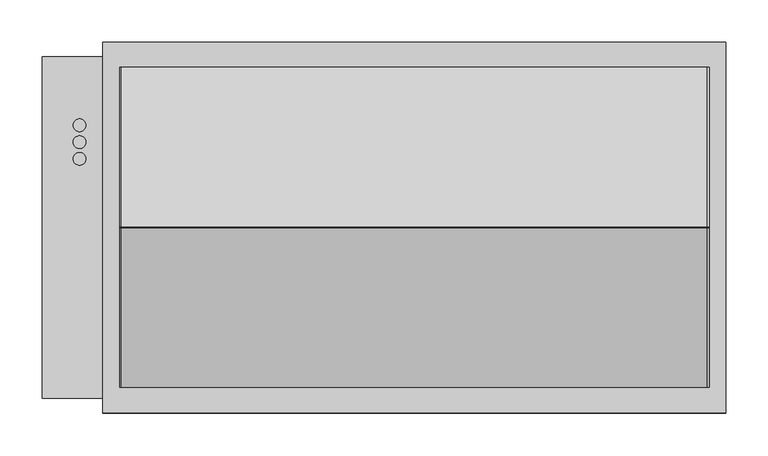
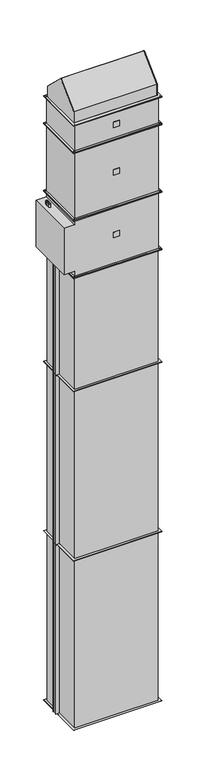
"""IFC4 building model written with IfcOpenShell, lengths in millimetres: proxy geometry, KORF_Завеса_ЭлектрическийНагрев_PWZ_C : PWZ-C 70-40 E DM."""

from ifc_helpers import new_model, si_unit, point, frame, frame_2d, origin, origin_with_axes, place, context, project, spatial, polyline, circle_curve, trimmed, segment, composite_curve, outline, extrude, source, transform, mapped, element, save


def mechanical_equipment_4c110e3a(model_context):
    return source(origin(), model_context, "Body", "SweptSolid", [
        extrude(outline(polyline([(25.0, -205.0), (-25.0, -205.0), (-25.0, -203.0), (25.0, -203.0), (25.0, -205.0)])), frame((0.0, 0.0, 4230.0), z_axis=(0.0, 0.0, 1.0), x_axis=(1.0, 0.0, 0.0)), (0.0, 0.0, 1.0), 50.0),
        extrude(outline(composite_curve([segment(trimmed(circle_curve(frame_2d((-397.5, 101.5)), 7.5), [point((-390.0, 101.5))], [point((-405.0, 101.5))], False, "CARTESIAN"), True, "CONTINUOUS"), segment(trimmed(circle_curve(frame_2d((-397.5, 101.5)), 7.5), [point((-405.0, 101.5))], [point((-390.0, 101.5))], False, "CARTESIAN"), True, "CONTINUOUS")], self_intersect=False)), frame((0.0, 0.0, 4460.0), z_axis=(0.0, 0.0, 1.0), x_axis=(1.0, 0.0, 0.0)), (0.0, 0.0, 1.0), 30.0),
        extrude(outline(composite_curve([segment(trimmed(circle_curve(frame_2d((-397.5, 81.5)), 7.5), [point((-390.0, 81.5))], [point((-405.0, 81.5))], False, "CARTESIAN"), True, "CONTINUOUS"), segment(trimmed(circle_curve(frame_2d((-397.5, 81.5)), 7.5), [point((-405.0, 81.5))], [point((-390.0, 81.5))], False, "CARTESIAN"), True, "CONTINUOUS")], self_intersect=False)), frame((0.0, 0.0, 4460.0), z_axis=(0.0, 0.0, 1.0), x_axis=(1.0, 0.0, 0.0)), (0.0, 0.0, 1.0), 30.0),
        extrude(outline(composite_curve([segment(trimmed(circle_curve(frame_2d((-397.5, 121.5)), 7.5), [point((-390.0, 121.5))], [point((-405.0, 121.5))], False, "CARTESIAN"), True, "CONTINUOUS"), segment(trimmed(circle_curve(frame_2d((-397.5, 121.5)), 7.5), [point((-405.0, 121.5))], [point((-390.0, 121.5))], False, "CARTESIAN"), True, "CONTINUOUS")], self_intersect=False)), frame((0.0, 0.0, 4460.0), z_axis=(0.0, 0.0, 1.0), x_axis=(1.0, 0.0, 0.0)), (0.0, 0.0, 1.0), 30.0),
        extrude(outline(polyline([(-121.5, 4230.0), (-109.0, 4230.0), (-109.0, 4305.0), (-94.0, 4305.0), (-94.0, 4230.0), (-81.5, 4230.0), (-101.5, 4205.0), (-121.5, 4230.0)])), frame((353.0, 0.0, 0.0), z_axis=(1.0, 0.0, 0.0), x_axis=(0.0, 1.0, 0.0)), (0.0, 0.0, 1.0), 1.0),
        extrude(outline(polyline([(4505.0, 353.0), (4505.0, -353.0), (4460.0, -353.0), (4460.0, -442.0), (4050.0, -442.0), (4050.0, -353.0), (4005.0, -353.0), (4005.0, 353.0), (4505.0, 353.0)])), frame((0.0, -203.0, 0.0), z_axis=(0.0, 1.0, 0.0), x_axis=(0.0, 0.0, 1.0)), (0.0, 0.0, 1.0), 406.0),
        extrude(outline(polyline([(370.0, -220.0), (-370.0, -220.0), (-370.0, 220.0), (370.0, 220.0), (370.0, -220.0)]), holes=[polyline([(350.0, -200.0), (350.0, 200.0), (-350.0, 200.0), (-350.0, -200.0), (350.0, -200.0)]), composite_curve([segment(trimmed(circle_curve(frame_2d((-360.0, -210.0)), 4.5), [point((-355.5, -210.0))], [point((-364.5, -210.0))], True, "CARTESIAN"), True, "CONTINUOUS"), segment(trimmed(circle_curve(frame_2d((-360.0, -210.0)), 4.5), [point((-364.5, -210.0))], [point((-355.5, -210.0))], True, "CARTESIAN"), True, "CONTINUOUS")], self_intersect=False), composite_curve([segment(trimmed(circle_curve(frame_2d((360.0, -210.0)), 4.5), [point((364.5, -210.0))], [point((355.5, -210.0))], True, "CARTESIAN"), True, "CONTINUOUS"), segment(trimmed(circle_curve(frame_2d((360.0, -210.0)), 4.5), [point((355.5, -210.0))], [point((364.5, -210.0))], True, "CARTESIAN"), True, "CONTINUOUS")], self_intersect=False), composite_curve([segment(trimmed(circle_curve(frame_2d((360.0, 210.0)), 4.5), [point((364.5, 210.0))], [point((355.5, 210.0))], True, "CARTESIAN"), True, "CONTINUOUS"), segment(trimmed(circle_curve(frame_2d((360.0, 210.0)), 4.5), [point((355.5, 210.0))], [point((364.5, 210.0))], True, "CARTESIAN"), True, "CONTINUOUS")], self_intersect=False), composite_curve([segment(trimmed(circle_curve(frame_2d((-360.0, 210.0)), 4.5), [point((-355.5, 210.0))], [point((-364.5, 210.0))], True, "CARTESIAN"), True, "CONTINUOUS"), segment(trimmed(circle_curve(frame_2d((-360.0, 210.0)), 4.5), [point((-364.5, 210.0))], [point((-355.5, 210.0))], True, "CARTESIAN"), True, "CONTINUOUS")], self_intersect=False)]), frame((0.0, 0.0, 4505.0), z_axis=(0.0, 0.0, 1.0), x_axis=(1.0, 0.0, 0.0)), (0.0, 0.0, 1.0), 5.0),
        extrude(outline(polyline([(370.0, -220.0), (-370.0, -220.0), (-370.0, 220.0), (370.0, 220.0), (370.0, -220.0)]), holes=[polyline([(350.0, -200.0), (350.0, 200.0), (-350.0, 200.0), (-350.0, -200.0), (350.0, -200.0)]), composite_curve([segment(trimmed(circle_curve(frame_2d((-360.0, -210.0)), 4.5), [point((-355.5, -210.0))], [point((-364.5, -210.0))], True, "CARTESIAN"), True, "CONTINUOUS"), segment(trimmed(circle_curve(frame_2d((-360.0, -210.0)), 4.5), [point((-364.5, -210.0))], [point((-355.5, -210.0))], True, "CARTESIAN"), True, "CONTINUOUS")], self_intersect=False), composite_curve([segment(trimmed(circle_curve(frame_2d((360.0, -210.0)), 4.5), [point((364.5, -210.0))], [point((355.5, -210.0))], True, "CARTESIAN"), True, "CONTINUOUS"), segment(trimmed(circle_curve(frame_2d((360.0, -210.0)), 4.5), [point((355.5, -210.0))], [point((364.5, -210.0))], True, "CARTESIAN"), True, "CONTINUOUS")], self_intersect=False), composite_curve([segment(trimmed(circle_curve(frame_2d((360.0, 210.0)), 4.5), [point((364.5, 210.0))], [point((355.5, 210.0))], True, "CARTESIAN"), True, "CONTINUOUS"), segment(trimmed(circle_curve(frame_2d((360.0, 210.0)), 4.5), [point((355.5, 210.0))], [point((364.5, 210.0))], True, "CARTESIAN"), True, "CONTINUOUS")], self_intersect=False), composite_curve([segment(trimmed(circle_curve(frame_2d((-360.0, 210.0)), 4.5), [point((-355.5, 210.0))], [point((-364.5, 210.0))], True, "CARTESIAN"), True, "CONTINUOUS"), segment(trimmed(circle_curve(frame_2d((-360.0, 210.0)), 4.5), [point((-364.5, 210.0))], [point((-355.5, 210.0))], True, "CARTESIAN"), True, "CONTINUOUS")], self_intersect=False)]), frame((0.0, 0.0, 4000.0), z_axis=(0.0, 0.0, 1.0), x_axis=(1.0, 0.0, 0.0)), (0.0, 0.0, 1.0), 5.0),
        extrude(outline(polyline([(25.0, -205.0), (-25.0, -205.0), (-25.0, -203.0), (25.0, -203.0), (25.0, -205.0)])), frame((0.0, 0.0, 5206.0), z_axis=(0.0, 0.0, 1.0), x_axis=(1.0, 0.0, 0.0)), (0.0, 0.0, 1.0), 50.0),
        extrude(outline(polyline([(-370.0, -220.0), (-370.0, 220.0), (370.0, 220.0), (370.0, -220.0), (-370.0, -220.0)]), holes=[polyline([(-350.0, -200.0), (350.0, -200.0), (350.0, 200.0), (-350.0, 200.0), (-350.0, -200.0)]), composite_curve([segment(trimmed(circle_curve(frame_2d((360.0, -210.0)), 4.5), [point((364.5, -210.0))], [point((355.5, -210.0))], True, "CARTESIAN"), True, "CONTINUOUS"), segment(trimmed(circle_curve(frame_2d((360.0, -210.0)), 4.5), [point((355.5, -210.0))], [point((364.5, -210.0))], True, "CARTESIAN"), True, "CONTINUOUS")], self_intersect=False), composite_curve([segment(trimmed(circle_curve(frame_2d((-360.0, -210.0)), 4.5), [point((-355.5, -210.0))], [point((-364.5, -210.0))], True, "CARTESIAN"), True, "CONTINUOUS"), segment(trimmed(circle_curve(frame_2d((-360.0, -210.0)), 4.5), [point((-364.5, -210.0))], [point((-355.5, -210.0))], True, "CARTESIAN"), True, "CONTINUOUS")], self_intersect=False), composite_curve([segment(trimmed(circle_curve(frame_2d((-360.0, 210.0)), 4.5), [point((-355.5, 210.0))], [point((-364.5, 210.0))], True, "CARTESIAN"), True, "CONTINUOUS"), segment(trimmed(circle_curve(frame_2d((-360.0, 210.0)), 4.5), [point((-364.5, 210.0))], [point((-355.5, 210.0))], True, "CARTESIAN"), True, "CONTINUOUS")], self_intersect=False), composite_curve([segment(trimmed(circle_curve(frame_2d((360.0, 210.0)), 4.5), [point((364.5, 210.0))], [point((355.5, 210.0))], True, "CARTESIAN"), True, "CONTINUOUS"), segment(trimmed(circle_curve(frame_2d((360.0, 210.0)), 4.5), [point((355.5, 210.0))], [point((364.5, 210.0))], True, "CARTESIAN"), True, "CONTINUOUS")], self_intersect=False)]), frame((0.0, 0.0, 5110.0), z_axis=(0.0, 0.0, 1.0), x_axis=(1.0, 0.0, 0.0)), (0.0, 0.0, 1.0), 5.0),
        extrude(outline(polyline([(-370.0, -220.0), (-370.0, 220.0), (370.0, 220.0), (370.0, -220.0), (-370.0, -220.0)]), holes=[polyline([(-350.0, -200.0), (350.0, -200.0), (350.0, 200.0), (-350.0, 200.0), (-350.0, -200.0)]), composite_curve([segment(trimmed(circle_curve(frame_2d((360.0, -210.0)), 4.5), [point((364.5, -210.0))], [point((355.5, -210.0))], True, "CARTESIAN"), True, "CONTINUOUS"), segment(trimmed(circle_curve(frame_2d((360.0, -210.0)), 4.5), [point((355.5, -210.0))], [point((364.5, -210.0))], True, "CARTESIAN"), True, "CONTINUOUS")], self_intersect=False), composite_curve([segment(trimmed(circle_curve(frame_2d((-360.0, -210.0)), 4.5), [point((-355.5, -210.0))], [point((-364.5, -210.0))], True, "CARTESIAN"), True, "CONTINUOUS"), segment(trimmed(circle_curve(frame_2d((-360.0, -210.0)), 4.5), [point((-364.5, -210.0))], [point((-355.5, -210.0))], True, "CARTESIAN"), True, "CONTINUOUS")], self_intersect=False), composite_curve([segment(trimmed(circle_curve(frame_2d((-360.0, 210.0)), 4.5), [point((-355.5, 210.0))], [point((-364.5, 210.0))], True, "CARTESIAN"), True, "CONTINUOUS"), segment(trimmed(circle_curve(frame_2d((-360.0, 210.0)), 4.5), [point((-364.5, 210.0))], [point((-355.5, 210.0))], True, "CARTESIAN"), True, "CONTINUOUS")], self_intersect=False), composite_curve([segment(trimmed(circle_curve(frame_2d((360.0, 210.0)), 4.5), [point((364.5, 210.0))], [point((355.5, 210.0))], True, "CARTESIAN"), True, "CONTINUOUS"), segment(trimmed(circle_curve(frame_2d((360.0, 210.0)), 4.5), [point((355.5, 210.0))], [point((364.5, 210.0))], True, "CARTESIAN"), True, "CONTINUOUS")], self_intersect=False)]), frame((0.0, 0.0, 5347.0), z_axis=(0.0, 0.0, 1.0), x_axis=(1.0, 0.0, 0.0)), (0.0, 0.0, 1.0), 5.0),
        extrude(outline(polyline([(-353.0, -203.0), (-353.0, 203.0), (353.0, 203.0), (353.0, -203.0), (-353.0, -203.0)])), frame((0.0, 0.0, 5115.0), z_axis=(0.0, 0.0, 1.0), x_axis=(1.0, 0.0, 0.0)), (0.0, 0.0, 1.0), 232.0),
        extrude(outline(polyline([(25.0, -205.0), (-25.0, -205.0), (-25.0, -203.0), (25.0, -203.0), (25.0, -205.0)])), frame((0.0, 0.0, 4785.0), z_axis=(0.0, 0.0, 1.0), x_axis=(1.0, 0.0, 0.0)), (0.0, 0.0, 1.0), 50.0),
        extrude(outline(polyline([(370.0, -220.0), (-370.0, -220.0), (-370.0, 220.0), (370.0, 220.0), (370.0, -220.0)]), holes=[polyline([(350.0, -200.0), (350.0, 200.0), (-350.0, 200.0), (-350.0, -200.0), (350.0, -200.0)]), composite_curve([segment(trimmed(circle_curve(frame_2d((-360.0, -210.0)), 4.5), [point((-355.5, -210.0))], [point((-364.5, -210.0))], True, "CARTESIAN"), True, "CONTINUOUS"), segment(trimmed(circle_curve(frame_2d((-360.0, -210.0)), 4.5), [point((-364.5, -210.0))], [point((-355.5, -210.0))], True, "CARTESIAN"), True, "CONTINUOUS")], self_intersect=False), composite_curve([segment(trimmed(circle_curve(frame_2d((360.0, -210.0)), 4.5), [point((364.5, -210.0))], [point((355.5, -210.0))], True, "CARTESIAN"), True, "CONTINUOUS"), segment(trimmed(circle_curve(frame_2d((360.0, -210.0)), 4.5), [point((355.5, -210.0))], [point((364.5, -210.0))], True, "CARTESIAN"), True, "CONTINUOUS")], self_intersect=False), composite_curve([segment(trimmed(circle_curve(frame_2d((360.0, 210.0)), 4.5), [point((364.5, 210.0))], [point((355.5, 210.0))], True, "CARTESIAN"), True, "CONTINUOUS"), segment(trimmed(circle_curve(frame_2d((360.0, 210.0)), 4.5), [point((355.5, 210.0))], [point((364.5, 210.0))], True, "CARTESIAN"), True, "CONTINUOUS")], self_intersect=False), composite_curve([segment(trimmed(circle_curve(frame_2d((-360.0, 210.0)), 4.5), [point((-355.5, 210.0))], [point((-364.5, 210.0))], True, "CARTESIAN"), True, "CONTINUOUS"), segment(trimmed(circle_curve(frame_2d((-360.0, 210.0)), 4.5), [point((-364.5, 210.0))], [point((-355.5, 210.0))], True, "CARTESIAN"), True, "CONTINUOUS")], self_intersect=False)]), frame((0.0, 0.0, 5105.0), z_axis=(0.0, 0.0, 1.0), x_axis=(1.0, 0.0, 0.0)), (0.0, 0.0, 1.0), 5.0),
        extrude(outline(polyline([(370.0, -220.0), (-370.0, -220.0), (-370.0, 220.0), (370.0, 220.0), (370.0, -220.0)]), holes=[polyline([(350.0, -200.0), (350.0, 200.0), (-350.0, 200.0), (-350.0, -200.0), (350.0, -200.0)]), composite_curve([segment(trimmed(circle_curve(frame_2d((-360.0, -210.0)), 4.5), [point((-355.5, -210.0))], [point((-364.5, -210.0))], True, "CARTESIAN"), True, "CONTINUOUS"), segment(trimmed(circle_curve(frame_2d((-360.0, -210.0)), 4.5), [point((-364.5, -210.0))], [point((-355.5, -210.0))], True, "CARTESIAN"), True, "CONTINUOUS")], self_intersect=False), composite_curve([segment(trimmed(circle_curve(frame_2d((360.0, -210.0)), 4.5), [point((364.5, -210.0))], [point((355.5, -210.0))], True, "CARTESIAN"), True, "CONTINUOUS"), segment(trimmed(circle_curve(frame_2d((360.0, -210.0)), 4.5), [point((355.5, -210.0))], [point((364.5, -210.0))], True, "CARTESIAN"), True, "CONTINUOUS")], self_intersect=False), composite_curve([segment(trimmed(circle_curve(frame_2d((360.0, 210.0)), 4.5), [point((364.5, 210.0))], [point((355.5, 210.0))], True, "CARTESIAN"), True, "CONTINUOUS"), segment(trimmed(circle_curve(frame_2d((360.0, 210.0)), 4.5), [point((355.5, 210.0))], [point((364.5, 210.0))], True, "CARTESIAN"), True, "CONTINUOUS")], self_intersect=False), composite_curve([segment(trimmed(circle_curve(frame_2d((-360.0, 210.0)), 4.5), [point((-355.5, 210.0))], [point((-364.5, 210.0))], True, "CARTESIAN"), True, "CONTINUOUS"), segment(trimmed(circle_curve(frame_2d((-360.0, 210.0)), 4.5), [point((-364.5, 210.0))], [point((-355.5, 210.0))], True, "CARTESIAN"), True, "CONTINUOUS")], self_intersect=False)]), frame((0.0, 0.0, 4510.0), z_axis=(0.0, 0.0, 1.0), x_axis=(1.0, 0.0, 0.0)), (0.0, 0.0, 1.0), 5.0),
        extrude(outline(polyline([(353.0, -203.0), (-353.0, -203.0), (-353.0, 203.0), (353.0, 203.0), (353.0, -203.0)])), frame((0.0, 0.0, 4515.0), z_axis=(0.0, 0.0, 1.0), x_axis=(1.0, 0.0, 0.0)), (0.0, 0.0, 1.0), 590.0),
        extrude(outline(polyline([(350.0, 200.0), (350.0, -200.0), (-350.0, -200.0), (-350.0, 200.0), (350.0, 200.0)])), frame((0.0, 0.0, 3000.0), z_axis=(0.0, 0.0, 1.0), x_axis=(1.0, 0.0, 0.0)), (0.0, 0.0, 1.0), 1000.0),
        extrude(outline(polyline([(-378.0, 52.5), (-350.0, 52.5), (-350.0, 23.5), (-378.0, 23.5), (-378.0, 52.5)])), frame((0.0, 0.0, 3002.0), z_axis=(0.0, 0.0, 1.0), x_axis=(1.0, 0.0, 0.0)), (0.0, 0.0, 1.0), 996.0),
        extrude(outline(polyline([(-382.0, 56.5), (-350.0, 56.5), (-350.0, 54.5), (-382.0, 54.5), (-382.0, 56.5)])), frame((0.0, 0.0, 3002.0), z_axis=(0.0, 0.0, 1.0), x_axis=(1.0, 0.0, 0.0)), (0.0, 0.0, 1.0), 996.0),
        extrude(outline(polyline([(-382.0, 19.5), (-382.0, 21.5), (-350.0, 21.5), (-350.0, 19.5), (-382.0, 19.5)])), frame((0.0, 0.0, 3002.0), z_axis=(0.0, 0.0, 1.0), x_axis=(1.0, 0.0, 0.0)), (0.0, 0.0, 1.0), 996.0),
        extrude(outline(polyline([(370.0, 220.0), (370.0, -220.0), (-370.0, -220.0), (-370.0, 220.0), (370.0, 220.0)]), holes=[polyline([(350.0, 200.0), (-350.0, 200.0), (-350.0, -200.0), (350.0, -200.0), (350.0, 200.0)])]), frame((0.0, 0.0, 3998.0), z_axis=(0.0, 0.0, 1.0), x_axis=(1.0, 0.0, 0.0)), (0.0, 0.0, 1.0), 2.0),
        extrude(outline(polyline([(370.0, 220.0), (370.0, -220.0), (-370.0, -220.0), (-370.0, 220.0), (370.0, 220.0)]), holes=[polyline([(350.0, 200.0), (-350.0, 200.0), (-350.0, -200.0), (350.0, -200.0), (350.0, 200.0)])]), frame((0.0, 0.0, 3000.0), z_axis=(0.0, 0.0, 1.0), x_axis=(1.0, 0.0, 0.0)), (0.0, 0.0, 1.0), 2.0),
        extrude(outline(polyline([(350.0, 200.0), (350.0, -200.0), (-350.0, -200.0), (-350.0, 200.0), (350.0, 200.0)])), frame((0.0, 0.0, 1500.0), z_axis=(0.0, 0.0, 1.0), x_axis=(1.0, 0.0, 0.0)), (0.0, 0.0, 1.0), 1500.0),
        extrude(outline(polyline([(-378.0, 52.5), (-350.0, 52.5), (-350.0, 23.5), (-378.0, 23.5), (-378.0, 52.5)])), frame((0.0, 0.0, 1502.0), z_axis=(0.0, 0.0, 1.0), x_axis=(1.0, 0.0, 0.0)), (0.0, 0.0, 1.0), 1496.0),
        extrude(outline(polyline([(-382.0, 56.5), (-350.0, 56.5), (-350.0, 54.5), (-382.0, 54.5), (-382.0, 56.5)])), frame((0.0, 0.0, 1502.0), z_axis=(0.0, 0.0, 1.0), x_axis=(1.0, 0.0, 0.0)), (0.0, 0.0, 1.0), 1496.0),
        extrude(outline(polyline([(-382.0, 19.5), (-382.0, 21.5), (-350.0, 21.5), (-350.0, 19.5), (-382.0, 19.5)])), frame((0.0, 0.0, 1502.0), z_axis=(0.0, 0.0, 1.0), x_axis=(1.0, 0.0, 0.0)), (0.0, 0.0, 1.0), 1496.0),
        extrude(outline(polyline([(370.0, 220.0), (370.0, -220.0), (-370.0, -220.0), (-370.0, 220.0), (370.0, 220.0)]), holes=[polyline([(350.0, 200.0), (-350.0, 200.0), (-350.0, -200.0), (350.0, -200.0), (350.0, 200.0)])]), frame((0.0, 0.0, 2998.0), z_axis=(0.0, 0.0, 1.0), x_axis=(1.0, 0.0, 0.0)), (0.0, 0.0, 1.0), 2.0),
        extrude(outline(polyline([(370.0, 220.0), (370.0, -220.0), (-370.0, -220.0), (-370.0, 220.0), (370.0, 220.0)]), holes=[polyline([(350.0, 200.0), (-350.0, 200.0), (-350.0, -200.0), (350.0, -200.0), (350.0, 200.0)])]), frame((0.0, 0.0, 1500.0), z_axis=(0.0, 0.0, 1.0), x_axis=(1.0, 0.0, 0.0)), (0.0, 0.0, 1.0), 2.0),
        extrude(outline(polyline([(350.0, 200.0), (350.0, -200.0), (-350.0, -200.0), (-350.0, 200.0), (350.0, 200.0)])), origin_with_axes(), (0.0, 0.0, 1.0), 1500.0),
        extrude(outline(polyline([(-378.0, 52.5), (-350.0, 52.5), (-350.0, 23.5), (-378.0, 23.5), (-378.0, 52.5)])), frame((0.0, 0.0, 2.0), z_axis=(0.0, 0.0, 1.0), x_axis=(1.0, 0.0, 0.0)), (0.0, 0.0, 1.0), 1496.0),
        extrude(outline(polyline([(-382.0, 56.5), (-350.0, 56.5), (-350.0, 54.5), (-382.0, 54.5), (-382.0, 56.5)])), frame((0.0, 0.0, 2.0), z_axis=(0.0, 0.0, 1.0), x_axis=(1.0, 0.0, 0.0)), (0.0, 0.0, 1.0), 1496.0),
        extrude(outline(polyline([(-382.0, 19.5), (-382.0, 21.5), (-350.0, 21.5), (-350.0, 19.5), (-382.0, 19.5)])), frame((0.0, 0.0, 2.0), z_axis=(0.0, 0.0, 1.0), x_axis=(1.0, 0.0, 0.0)), (0.0, 0.0, 1.0), 1496.0),
        extrude(outline(polyline([(370.0, 220.0), (370.0, -220.0), (-370.0, -220.0), (-370.0, 220.0), (370.0, 220.0)]), holes=[polyline([(350.0, 200.0), (-350.0, 200.0), (-350.0, -200.0), (350.0, -200.0), (350.0, 200.0)])]), frame((0.0, 0.0, 1498.0), z_axis=(0.0, 0.0, 1.0), x_axis=(1.0, 0.0, 0.0)), (0.0, 0.0, 1.0), 2.0),
        extrude(outline(polyline([(370.0, 220.0), (370.0, -220.0), (-370.0, -220.0), (-370.0, 220.0), (370.0, 220.0)]), holes=[polyline([(350.0, 200.0), (-350.0, 200.0), (-350.0, -200.0), (350.0, -200.0), (350.0, 200.0)])]), origin_with_axes(), (0.0, 0.0, 1.0), 2.0),
        extrude(outline(composite_curve([segment(polyline([(190.0, 5449.1428571), (190.0, 5354.0), (-190.0, 5354.0), (-190.0, 5449.1428571), (-0.6395979, 5631.3786763)]), True, "CONTINUOUS"), segment(trimmed(circle_curve(frame_2d((0.0, 5630.7202668)), 0.9179263), [point((-0.6395979, 5631.3786763))], [point((0.6395979, 5631.3786763))], False, "CARTESIAN"), True, "CONTINUOUS"), segment(polyline([(0.6395979, 5631.3786763), (190.0, 5449.1428571)]), True, "CONTINUOUS")], self_intersect=False)), frame((348.0, 0.0, 0.0), z_axis=(1.0, 0.0, 0.0), x_axis=(0.0, 1.0, 0.0)), (0.0, 0.0, 1.0), 2.0),
        extrude(outline(composite_curve([segment(polyline([(190.0, 5449.1428571), (190.0, 5354.0), (-190.0, 5354.0), (-190.0, 5449.1428571), (-0.6395979, 5631.3786763)]), True, "CONTINUOUS"), segment(trimmed(circle_curve(frame_2d((0.0, 5630.7202668)), 0.9179263), [point((-0.6395979, 5631.3786763))], [point((0.6395979, 5631.3786763))], False, "CARTESIAN"), True, "CONTINUOUS"), segment(polyline([(0.6395979, 5631.3786763), (190.0, 5449.1428571)]), True, "CONTINUOUS")], self_intersect=False)), frame((-348.0, 0.0, 0.0), z_axis=(1.0, 0.0, 0.0), x_axis=(0.0, 1.0, 0.0)), (0.0, 0.0, 1.0), 696.0),
        extrude(outline(composite_curve([segment(polyline([(190.0, 5449.1428571), (190.0, 5354.0), (-190.0, 5354.0), (-190.0, 5449.1428571), (-0.6395979, 5631.3786763)]), True, "CONTINUOUS"), segment(trimmed(circle_curve(frame_2d((0.0, 5630.7202668)), 0.9179263), [point((-0.6395979, 5631.3786763))], [point((0.6395979, 5631.3786763))], False, "CARTESIAN"), True, "CONTINUOUS"), segment(polyline([(0.6395979, 5631.3786763), (190.0, 5449.1428571)]), True, "CONTINUOUS")], self_intersect=False)), frame((-350.0, 0.0, 0.0), z_axis=(1.0, 0.0, 0.0), x_axis=(0.0, 1.0, 0.0)), (0.0, 0.0, 1.0), 2.0),
        extrude(outline(polyline([(370.0, 220.0), (370.0, -220.0), (-370.0, -220.0), (-370.0, 220.0), (370.0, 220.0)]), holes=[polyline([(-350.0, 190.0), (-350.0, -190.0), (350.0, -190.0), (350.0, 190.0), (-350.0, 190.0)])]), frame((0.0, 0.0, 5352.0), z_axis=(0.0, 0.0, 1.0), x_axis=(1.0, 0.0, 0.0)), (0.0, 0.0, 1.0), 2.0),
    ])


if __name__ == "__main__":
    model = new_model("IFC4")
    model_context = context("Model", 3, world=origin())
    ifc_project = project(units=[si_unit("LENGTHUNIT", "METRE", prefix="MILLI")], contexts=[model_context])
    site = spatial("IfcSite", under=ifc_project)
    building = spatial("IfcBuilding", under=site)
    placement = place(None, origin())
    mechanical_equipment_shape = mechanical_equipment_4c110e3a(model_context)
    element("IfcBuildingElementProxy", 1, Name="KORF_Завеса_ЭлектрическийНагрев_PWZ_C : PWZ-C 70-40 E DM", ObjectType="KORF_Завеса_ЭлектрическийНагрев_PWZ_C : PWZ-C 70-40 E DM", at=placement, inside=building, context=model_context, shape_type="MappedRepresentation", body=[
        mapped(mechanical_equipment_shape, transform((0.0, 0.0, 0.0), x_axis=(1.0, 0.0, 0.0), y_axis=(0.0, 1.0, 0.0), z_axis=(0.0, 0.0, 1.0))),
    ])
    save(model, "model.ifc")
